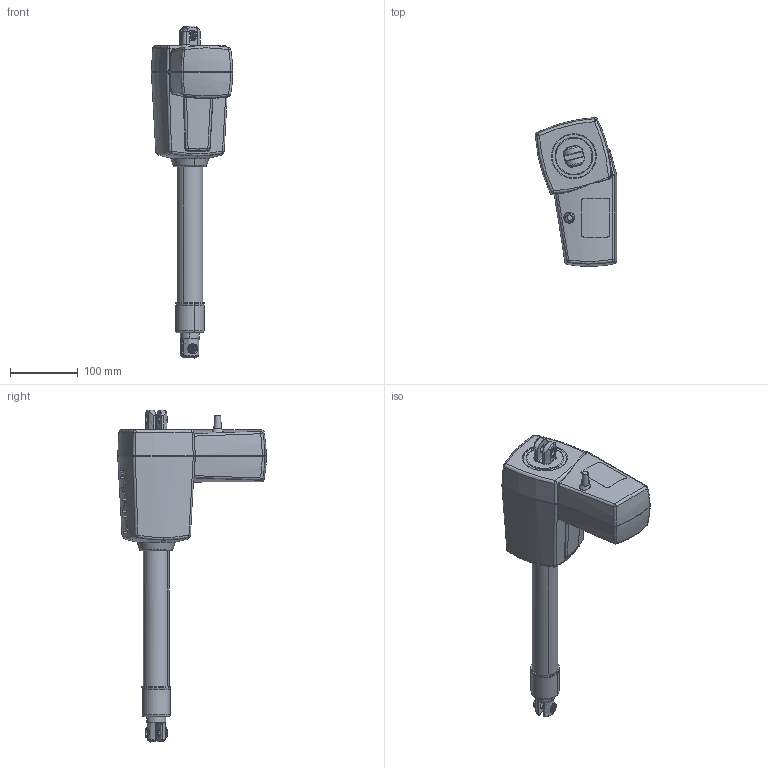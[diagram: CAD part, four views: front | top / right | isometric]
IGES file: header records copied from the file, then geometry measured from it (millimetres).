
Start section:  PTC IGES file: 343100_0xxxx04x.igs
Global section: file name: 343100_0xxxx04x.igs; native system: Pro/ENGINEER by Parametric Technology Corporation; preprocessor: 2005110; author: abl; organization: Unknown; date: 060202.095740; units: millimetre
Bounding box: 119.66 x 218.7 x 488.49 mm (x, y, z)
Volume: 2406727.8 mm3; surface area: 213246.1 mm2
Topology: 3 solids, 3 shells, 688 faces, 1900 edges, 1210 vertices
Faces by surface type: bspline 459, revolution 229
